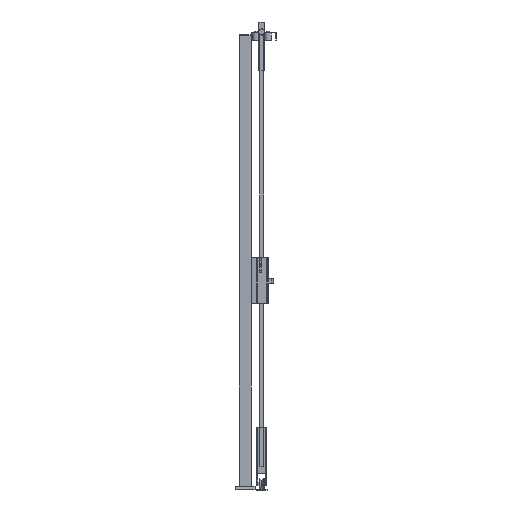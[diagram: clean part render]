
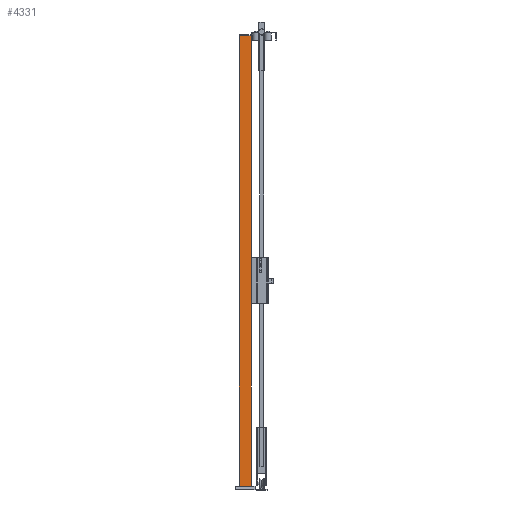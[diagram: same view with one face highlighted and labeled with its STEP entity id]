
A CAD part, left-side view. The second image highlights one B-rep face of the part: STEP entity #4331.
In plain terms, the highlighted planar face has unit normal (-1, 0, 0) as drawn and (0, 1, 0) by its records, which use the part's own axes.
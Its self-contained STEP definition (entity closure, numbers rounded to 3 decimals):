
#500=FACE_OUTER_BOUND('',#815,.T.);
#815=EDGE_LOOP('',(#2728,#2729,#2730,#2731));
#1171=VERTEX_POINT('',#9022);
#1172=VERTEX_POINT('',#9024);
#1174=VERTEX_POINT('',#9030);
#1177=VERTEX_POINT('',#9035);
#1789=EDGE_CURVE('',#1171,#1172,#5043,.T.);
#1795=EDGE_CURVE('',#1177,#1174,#5049,.T.);
#1798=EDGE_CURVE('',#1172,#1177,#5052,.T.);
#1799=EDGE_CURVE('',#1171,#1174,#5053,.T.);
#2728=ORIENTED_EDGE('',*,*,#1799,.T.);
#2729=ORIENTED_EDGE('',*,*,#1795,.F.);
#2730=ORIENTED_EDGE('',*,*,#1798,.F.);
#2731=ORIENTED_EDGE('',*,*,#1789,.F.);
#4062=PLANE('',#6404);
#4331=ADVANCED_FACE('',(#500),#4062,.F.);
#5043=LINE('',#9025,#5769);
#5049=LINE('',#9037,#5775);
#5052=LINE('',#9042,#5778);
#5053=LINE('',#9044,#5779);
#5769=VECTOR('',#7128,1.);
#5775=VECTOR('',#7136,1.);
#5778=VECTOR('',#7143,1.);
#5779=VECTOR('',#7146,1.);
#6404=AXIS2_PLACEMENT_3D('',#9043,#7144,#7145);
#7128=DIRECTION('',(-1.,0.,0.));
#7136=DIRECTION('',(1.,0.,0.));
#7143=DIRECTION('',(0.,0.,-1.));
#7144=DIRECTION('center_axis',(0.,-1.,0.));
#7145=DIRECTION('ref_axis',(0.,0.,-1.));
#7146=DIRECTION('',(0.,0.,-1.));
#9022=CARTESIAN_POINT('',(30.,30.,2320.));
#9024=CARTESIAN_POINT('',(-30.,30.,2320.));
#9025=CARTESIAN_POINT('',(0.,30.,2320.));
#9030=CARTESIAN_POINT('',(30.,30.,20.));
#9035=CARTESIAN_POINT('',(-30.,30.,20.));
#9037=CARTESIAN_POINT('',(0.,30.,20.));
#9042=CARTESIAN_POINT('',(-30.,30.,1170.));
#9043=CARTESIAN_POINT('Origin',(0.,30.,
1170.));
#9044=CARTESIAN_POINT('',(30.,30.,1170.));
